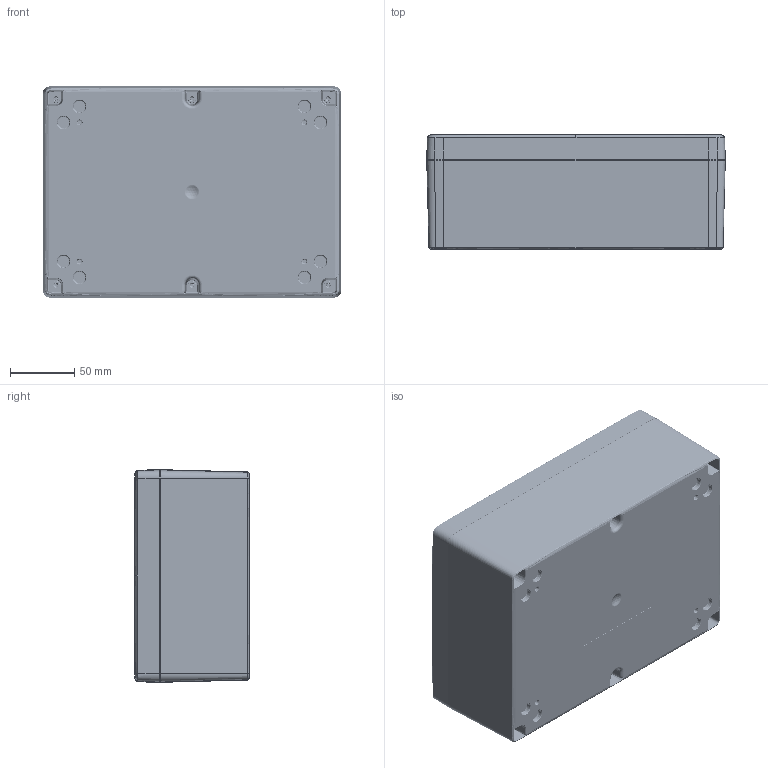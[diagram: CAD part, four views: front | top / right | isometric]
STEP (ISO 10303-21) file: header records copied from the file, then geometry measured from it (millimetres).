
FILE_DESCRIPTION (( 'STEP AP214' ), '1' );
FILE_NAME ('HN-69-14.STEP', '2026-09-24T18:08:11', ( '' ), ( '' ), 'SwSTEP 2.0', 'SolidWorks 2026', '' );
FILE_SCHEMA (( 'AUTOMOTIVE_DESIGN' ));
Length unit declared in the file: inch
Products named in the file (9): INSERTS-3_INSERTS-3; HN-69CG_HN-69CG-02; HN-69C_HN-69C-02; LABEL-107; HN-69-14; HN-69BN_HN-69BPN-00; HN-69G_default; HN-69B_HN-69BP-00; SCREWS-054_DEFAULT
Assembly tree (18 placements, depth 3):
  HN-69-14
    HN-69B_HN-69BP-00
      HN-69BN_HN-69BPN-00
      INSERTS-3_INSERTS-3  x6
      LABEL-107
    HN-69CG_HN-69CG-02
      HN-69C_HN-69C-02
      HN-69G_default
    SCREWS-054_DEFAULT  x6
Bounding box: 231.78 x 89.27 x 165.1 mm (x, y, z)
Volume: 528536.6 mm3; surface area: 333076.5 mm2
Topology: 16 solids, 16 shells, 4840 faces, 11562 edges, 6751 vertices
Faces by surface type: torus 1160, cone 1044, bspline 996, plane 834, cylinder 722, sphere 84
Full cylindrical faces by diameter (mm): 2.413 x6, 2.705 x6, 4.318 x6, 4.445 x24, 4.699 x12, 5.283 x12, 6.274 x6, 6.858 x6
Entity records: 166106 total; most frequent: CARTESIAN_POINT 78126, ORIENTED_EDGE 19824, DIRECTION 16283, EDGE_CURVE 9912, AXIS2_PLACEMENT_3D 7122, VERTEX_POINT 5971, EDGE_LOOP 4475, FACE_OUTER_BOUND 4272
